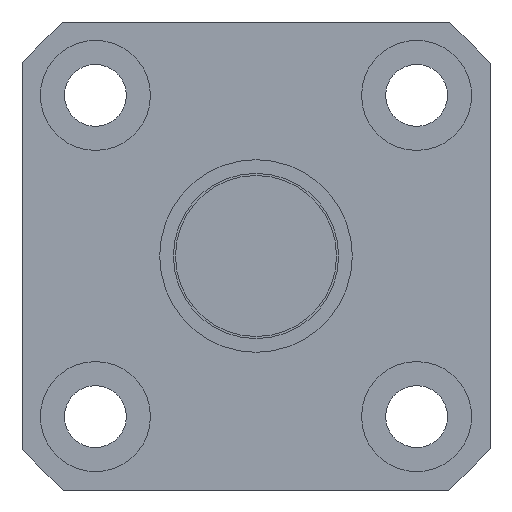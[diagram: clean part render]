
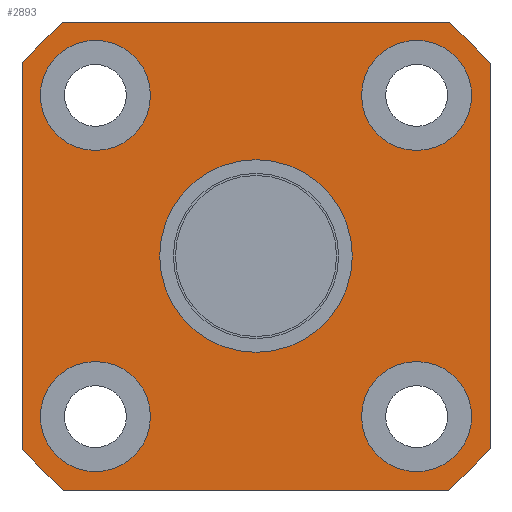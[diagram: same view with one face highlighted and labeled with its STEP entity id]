
A CAD part, left-side view. The second image highlights one B-rep face of the part: STEP entity #2893.
In plain terms, the highlighted planar face has unit normal (-1, 0, 0).
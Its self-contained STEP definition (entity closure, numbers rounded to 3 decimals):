
#479=CARTESIAN_POINT('',(230.012,15.667,-11.667));
#480=VERTEX_POINT('',#479);
#481=CARTESIAN_POINT('',(230.012,11.667,-11.667));
#482=DIRECTION('',(1.0,0.0,0.0));
#483=DIRECTION('',(0.0,1.0,0.0));
#484=AXIS2_PLACEMENT_3D('',#481,#482,#483);
#485=CIRCLE('',#484,4.0);
#486=EDGE_CURVE('',#480,#480,#485,.T.);
#547=CARTESIAN_POINT('',(230.012,-7.667,11.667));
#548=VERTEX_POINT('',#547);
#549=CARTESIAN_POINT('',(230.012,-11.667,11.667));
#550=DIRECTION('',(1.0,0.0,0.0));
#551=DIRECTION('',(0.0,1.0,0.0));
#552=AXIS2_PLACEMENT_3D('',#549,#550,#551);
#553=CIRCLE('',#552,4.0);
#554=EDGE_CURVE('',#548,#548,#553,.T.);
#615=CARTESIAN_POINT('',(230.012,15.667,11.667));
#616=VERTEX_POINT('',#615);
#617=CARTESIAN_POINT('',(230.012,11.667,11.667));
#618=DIRECTION('',(1.0,0.0,0.0));
#619=DIRECTION('',(0.0,1.0,0.0));
#620=AXIS2_PLACEMENT_3D('',#617,#618,#619);
#621=CIRCLE('',#620,4.0);
#622=EDGE_CURVE('',#616,#616,#621,.T.);
#683=CARTESIAN_POINT('',(230.012,-7.667,-11.667));
#684=VERTEX_POINT('',#683);
#685=CARTESIAN_POINT('',(230.012,-11.667,-11.667));
#686=DIRECTION('',(1.0,0.0,0.0));
#687=DIRECTION('',(0.0,1.0,0.0));
#688=AXIS2_PLACEMENT_3D('',#685,#686,#687);
#689=CIRCLE('',#688,4.0);
#690=EDGE_CURVE('',#684,#684,#689,.T.);
#2595=CARTESIAN_POINT('',(230.012,-17.0,-13.964));
#2596=VERTEX_POINT('',#2595);
#2603=CARTESIAN_POINT('',(230.012,-13.964,-17.0));
#2604=VERTEX_POINT('',#2603);
#2605=CARTESIAN_POINT('',(230.012,0.,0.0));
#2606=DIRECTION('',(1.0,0.0,0.0));
#2607=DIRECTION('',(0.0,1.0,0.0));
#2608=AXIS2_PLACEMENT_3D('',#2605,#2606,#2607);
#2609=CIRCLE('',#2608,22.0);
#2610=EDGE_CURVE('',#2596,#2604,#2609,.T.);
#2627=CARTESIAN_POINT('',(230.012,-17.0,13.964));
#2628=VERTEX_POINT('',#2627);
#2635=CARTESIAN_POINT('',(230.012,-17.0,13.964));
#2636=DIRECTION('',(0.0,0.0,-1.0));
#2637=VECTOR('',#2636,27.928);
#2638=LINE('',#2635,#2637);
#2639=EDGE_CURVE('',#2628,#2596,#2638,.T.);
#2651=CARTESIAN_POINT('',(230.012,-13.964,17.0));
#2652=VERTEX_POINT('',#2651);
#2659=CARTESIAN_POINT('',(230.012,0.,0.0));
#2660=DIRECTION('',(1.0,0.0,0.0));
#2661=DIRECTION('',(0.0,1.0,0.0));
#2662=AXIS2_PLACEMENT_3D('',#2659,#2660,#2661);
#2663=CIRCLE('',#2662,22.0);
#2664=EDGE_CURVE('',#2652,#2628,#2663,.T.);
#2676=CARTESIAN_POINT('',(230.012,13.964,17.0));
#2677=VERTEX_POINT('',#2676);
#2684=CARTESIAN_POINT('',(230.012,13.964,17.0));
#2685=DIRECTION('',(0.0,-1.0,0.0));
#2686=VECTOR('',#2685,27.928);
#2687=LINE('',#2684,#2686);
#2688=EDGE_CURVE('',#2677,#2652,#2687,.T.);
#2700=CARTESIAN_POINT('',(230.012,17.0,13.964));
#2701=VERTEX_POINT('',#2700);
#2708=CARTESIAN_POINT('',(230.012,0.,0.0));
#2709=DIRECTION('',(1.0,0.0,0.0));
#2710=DIRECTION('',(0.0,1.0,0.0));
#2711=AXIS2_PLACEMENT_3D('',#2708,#2709,#2710);
#2712=CIRCLE('',#2711,22.0);
#2713=EDGE_CURVE('',#2701,#2677,#2712,.T.);
#2725=CARTESIAN_POINT('',(230.012,17.0,-13.964));
#2726=VERTEX_POINT('',#2725);
#2733=CARTESIAN_POINT('',(230.012,17.0,-13.964));
#2734=DIRECTION('',(0.0,0.0,1.0));
#2735=VECTOR('',#2734,27.928);
#2736=LINE('',#2733,#2735);
#2737=EDGE_CURVE('',#2726,#2701,#2736,.T.);
#2749=CARTESIAN_POINT('',(230.012,13.964,-17.0));
#2750=VERTEX_POINT('',#2749);
#2757=CARTESIAN_POINT('',(230.012,0.,0.0));
#2758=DIRECTION('',(1.0,0.0,0.0));
#2759=DIRECTION('',(0.0,1.0,0.0));
#2760=AXIS2_PLACEMENT_3D('',#2757,#2758,#2759);
#2761=CIRCLE('',#2760,22.0);
#2762=EDGE_CURVE('',#2750,#2726,#2761,.T.);
#2775=CARTESIAN_POINT('',(230.012,-13.964,-17.0));
#2776=DIRECTION('',(0.0,1.0,0.0));
#2777=VECTOR('',#2776,27.928);
#2778=LINE('',#2775,#2777);
#2779=EDGE_CURVE('',#2604,#2750,#2778,.T.);
#2790=CARTESIAN_POINT('',(230.012,7.,0.0));
#2791=VERTEX_POINT('',#2790);
#2792=CARTESIAN_POINT('',(230.012,0.,0.0));
#2793=DIRECTION('',(1.0,0.0,0.0));
#2794=DIRECTION('',(0.0,1.0,0.0));
#2795=AXIS2_PLACEMENT_3D('',#2792,#2793,#2794);
#2796=CIRCLE('',#2795,7.);
#2797=EDGE_CURVE('',#2791,#2791,#2796,.T.);
#2863=CARTESIAN_POINT('',(230.012,9.75,0.0));
#2864=DIRECTION('',(-1.0,0.0,0.0));
#2865=DIRECTION('',(0.0,0.0,1.0));
#2866=AXIS2_PLACEMENT_3D('',#2863,#2864,#2865);
#2867=PLANE('',#2866);
#2868=ORIENTED_EDGE('',*,*,#2688,.F.);
#2869=ORIENTED_EDGE('',*,*,#2713,.F.);
#2870=ORIENTED_EDGE('',*,*,#2737,.F.);
#2871=ORIENTED_EDGE('',*,*,#2762,.F.);
#2872=ORIENTED_EDGE('',*,*,#2779,.F.);
#2873=ORIENTED_EDGE('',*,*,#2610,.F.);
#2874=ORIENTED_EDGE('',*,*,#2639,.F.);
#2875=ORIENTED_EDGE('',*,*,#2664,.F.);
#2876=EDGE_LOOP('',(#2868,#2869,#2870,#2871,#2872,#2873,#2874,#2875));
#2877=FACE_OUTER_BOUND('',#2876,.T.);
#2878=ORIENTED_EDGE('',*,*,#486,.T.);
#2879=EDGE_LOOP('',(#2878));
#2880=FACE_BOUND('',#2879,.T.);
#2881=ORIENTED_EDGE('',*,*,#554,.T.);
#2882=EDGE_LOOP('',(#2881));
#2883=FACE_BOUND('',#2882,.T.);
#2884=ORIENTED_EDGE('',*,*,#622,.T.);
#2885=EDGE_LOOP('',(#2884));
#2886=FACE_BOUND('',#2885,.T.);
#2887=ORIENTED_EDGE('',*,*,#690,.T.);
#2888=EDGE_LOOP('',(#2887));
#2889=FACE_BOUND('',#2888,.T.);
#2890=ORIENTED_EDGE('',*,*,#2797,.T.);
#2891=EDGE_LOOP('',(#2890));
#2892=FACE_BOUND('',#2891,.T.);
#2893=ADVANCED_FACE('',(#2877,#2880,#2883,#2886,#2889,#2892),#2867,.T.);
